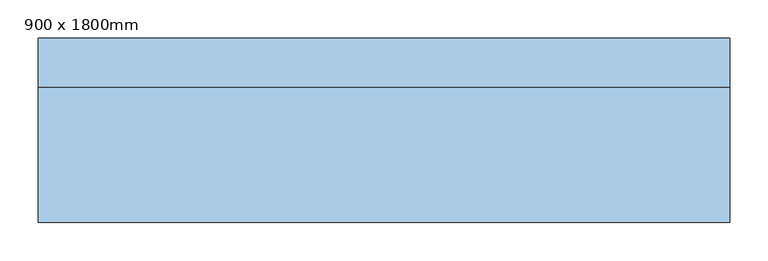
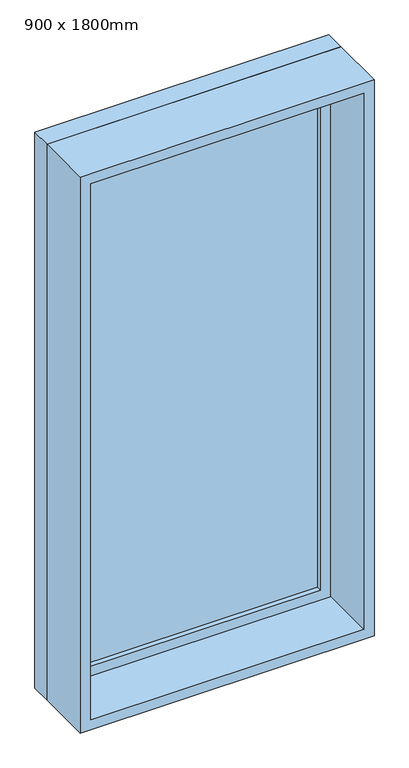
"""IFC4 building model written with IfcOpenShell, lengths in millimetres: window geometry, 固定窗 : 900 x 1800mm."""

from ifc_helpers import new_model, si_unit, frame, origin, place, context, project, spatial, polyline, outline, extrude, source, transform, mapped, element, save


def window_900_x_1800mm_95888512(model_context):
    return source(origin(), model_context, "Body", "SweptSolid", [
        extrude(outline(polyline([(348.4, 71.425), (-424.6, 71.425), (-424.6, 84.125), (348.4, 84.125), (348.4, 71.425)])), frame((0.0, 0.0, 363.5), z_axis=(0.0, 0.0, 1.0), x_axis=(1.0, 0.0, 0.0)), (0.0, 0.0, 1.0), 1673.0),
        extrude(outline(polyline([(2080.95, -469.05), (319.05, -469.05), (319.05, 392.85), (2080.95, 392.85), (2080.95, -469.05)]), holes=[polyline([(2036.5, -424.6), (2036.5, 348.4), (363.5, 348.4), (363.5, -424.6), (2036.5, -424.6)])]), frame((0.0, 55.55, 0.0), z_axis=(0.0, 1.0, 0.0), x_axis=(0.0, 0.0, 1.0)), (0.0, 0.0, 1.0), 44.45),
        extrude(outline(polyline([(2100.0, -488.1), (300.0, -488.1), (300.0, 411.9), (2100.0, 411.9), (2100.0, -488.1)]), holes=[polyline([(2068.25, -456.35), (2068.25, 380.15), (331.75, 380.15), (331.75, -456.35), (2068.25, -456.35)])]), frame((0.0, -120.0, 0.0), z_axis=(0.0, 1.0, 0.0), x_axis=(0.0, 0.0, 1.0)), (0.0, 0.0, 1.0), 175.55),
        extrude(outline(polyline([(2100.0, 411.9), (2100.0, -488.1), (300.0, -488.1), (300.0, 411.9), (2100.0, 411.9)]), holes=[polyline([(2080.95, 392.85), (319.05, 392.85), (319.05, -469.05), (2080.95, -469.05), (2080.95, 392.85)])]), frame((0.0, 55.55, 0.0), z_axis=(0.0, 1.0, 0.0), x_axis=(0.0, 0.0, 1.0)), (0.0, 0.0, 1.0), 64.45),
    ])


if __name__ == "__main__":
    model = new_model("IFC4")
    model_context = context("Model", 3, world=origin())
    ifc_project = project(units=[si_unit("LENGTHUNIT", "METRE", prefix="MILLI")], contexts=[model_context])
    site = spatial("IfcSite", under=ifc_project)
    building = spatial("IfcBuilding", under=site)
    placement = place(None, origin())
    window_900_x_1800mm_shape = window_900_x_1800mm_95888512(model_context)
    element("IfcWindow", 1, ObjectType="固定窗 : 900 x 1800mm", at=placement, inside=building, context=model_context, shape_type="MappedRepresentation", body=[
        mapped(window_900_x_1800mm_shape, transform((0.0, 0.0, 0.0), x_axis=(1.0, 0.0, 0.0), y_axis=(0.0, 1.0, 0.0), z_axis=(0.0, 0.0, 1.0))),
    ])
    save(model, "model.ifc")
